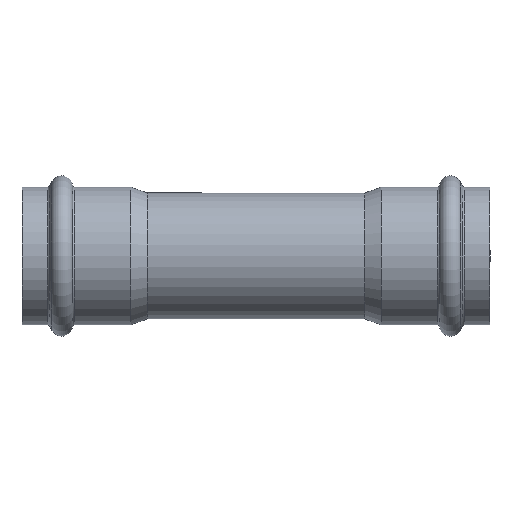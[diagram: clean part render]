
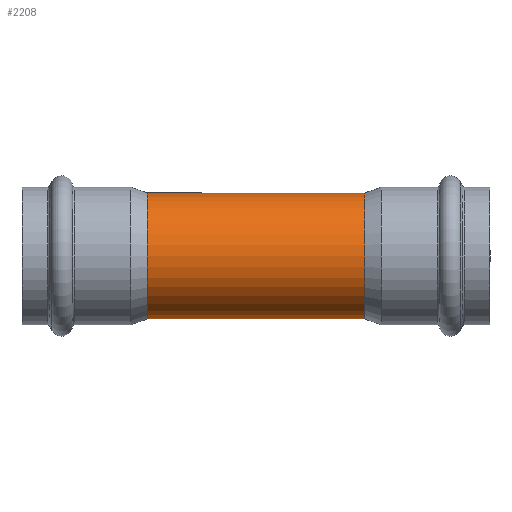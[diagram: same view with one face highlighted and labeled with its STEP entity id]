
A CAD part, front view. The second image highlights one B-rep face of the part: STEP entity #2208.
In plain terms, the highlighted cylindrical face has radius 17.5 mm (diameter 35 mm), a full revolution.
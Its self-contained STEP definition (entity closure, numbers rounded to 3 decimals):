
#1989=CARTESIAN_POINT('',(0.,10.243,-14.189));
#1990=VERTEX_POINT('',#1989);
#2078=CARTESIAN_POINT('',(0.,10.243,-14.189));
#2079=CARTESIAN_POINT('',(-0.445,10.243,-14.189));
#2080=CARTESIAN_POINT('',(-1.039,10.278,-14.164));
#2081=CARTESIAN_POINT('',(-1.99,10.406,-14.07));
#2082=CARTESIAN_POINT('',(-2.71,10.549,-13.964));
#2083=CARTESIAN_POINT('',(-3.836,10.849,-13.734));
#2084=CARTESIAN_POINT('',(-4.98,11.254,-13.408));
#2085=CARTESIAN_POINT('',(-5.99,11.7,-13.017));
#2086=CARTESIAN_POINT('',(-7.094,12.233,-12.522));
#2087=CARTESIAN_POINT('',(-8.141,12.802,-11.951));
#2088=CARTESIAN_POINT('',(-9.434,13.577,-11.058));
#2089=CARTESIAN_POINT('',(-10.526,14.278,-10.147));
#2090=CARTESIAN_POINT('',(-11.738,15.1,-8.896));
#2091=CARTESIAN_POINT('',(-12.557,15.683,-7.8));
#2092=CARTESIAN_POINT('',(-13.114,16.087,-6.894));
#2093=CARTESIAN_POINT('',(-13.422,16.313,-6.349));
#2094=CARTESIAN_POINT('',(-13.683,16.506,-5.823));
#2095=CARTESIAN_POINT('',(-14.166,16.865,-4.744));
#2096=CARTESIAN_POINT('',(-14.663,17.242,-3.257));
#2097=CARTESIAN_POINT('',(-15.015,17.512,-1.041));
#2098=CARTESIAN_POINT('',(-15.016,17.512,1.125));
#2099=CARTESIAN_POINT('',(-14.72,17.285,2.877));
#2100=CARTESIAN_POINT('',(-14.363,17.015,4.117));
#2101=CARTESIAN_POINT('',(-14.118,16.83,4.811));
#2102=CARTESIAN_POINT('',(-13.804,16.596,5.572));
#2103=CARTESIAN_POINT('',(-13.408,16.302,6.391));
#2104=CARTESIAN_POINT('',(-12.82,15.873,7.398));
#2105=CARTESIAN_POINT('',(-12.213,15.438,8.259));
#2106=CARTESIAN_POINT('',(-11.324,14.816,9.344));
#2107=CARTESIAN_POINT('',(-10.147,14.023,10.515));
#2108=CARTESIAN_POINT('',(-8.751,13.157,11.558));
#2109=CARTESIAN_POINT('',(-7.555,12.483,12.272));
#2110=CARTESIAN_POINT('',(-6.529,11.95,12.792));
#2111=CARTESIAN_POINT('',(-5.529,11.49,13.204));
#2112=CARTESIAN_POINT('',(-4.573,11.111,13.522));
#2113=CARTESIAN_POINT('',(-3.581,10.774,13.793));
#2114=CARTESIAN_POINT('',(-2.078,10.381,14.091));
#2115=CARTESIAN_POINT('',(-0.002,10.158,14.249));
#2116=CARTESIAN_POINT('',(1.879,10.359,14.107));
#2117=CARTESIAN_POINT('',(3.203,10.673,13.87));
#2118=CARTESIAN_POINT('',(3.943,10.895,13.696));
#2119=CARTESIAN_POINT('',(5.116,11.306,13.363));
#2120=CARTESIAN_POINT('',(6.183,11.779,12.953));
#2121=CARTESIAN_POINT('',(7.132,12.263,12.486));
#2122=CARTESIAN_POINT('',(7.676,12.553,12.195));
#2123=CARTESIAN_POINT('',(8.092,12.785,11.951));
#2124=CARTESIAN_POINT('',(8.977,13.297,11.39));
#2125=CARTESIAN_POINT('',(10.164,14.034,10.5));
#2126=CARTESIAN_POINT('',(11.329,14.82,9.337));
#2127=CARTESIAN_POINT('',(12.105,15.362,8.391));
#2128=CARTESIAN_POINT('',(12.522,15.659,7.821));
#2129=CARTESIAN_POINT('',(13.158,16.117,6.859));
#2130=CARTESIAN_POINT('',(13.919,16.679,5.434));
#2131=CARTESIAN_POINT('',(14.549,17.156,3.609));
#2132=CARTESIAN_POINT('',(14.843,17.38,2.149));
#2133=CARTESIAN_POINT('',(15.015,17.512,0.664));
#2134=CARTESIAN_POINT('',(15.016,17.512,-0.936));
#2135=CARTESIAN_POINT('',(14.77,17.324,-2.602));
#2136=CARTESIAN_POINT('',(14.406,17.047,-4.035));
#2137=CARTESIAN_POINT('',(13.835,16.617,-5.594));
#2138=CARTESIAN_POINT('',(13.065,16.048,-7.032));
#2139=CARTESIAN_POINT('',(12.265,15.475,-8.19));
#2140=CARTESIAN_POINT('',(11.165,14.704,-9.557));
#2141=CARTESIAN_POINT('',(9.748,13.759,-10.865));
#2142=CARTESIAN_POINT('',(8.02,12.732,-12.023));
#2143=CARTESIAN_POINT('',(6.382,11.86,-12.889));
#2144=CARTESIAN_POINT('',(4.851,11.191,-13.461));
#2145=CARTESIAN_POINT('',(3.211,10.663,-13.879));
#2146=CARTESIAN_POINT('',(1.781,10.337,-14.122));
#2147=CARTESIAN_POINT('',(0.594,10.243,-14.189));
#2148=CARTESIAN_POINT('',(0.,10.243,-14.189));
#2149=CARTESIAN_POINT('',(0.,10.243,-14.189));
#2150=CARTESIAN_POINT('',(0.,10.243,-14.189));
#2151=CARTESIAN_POINT('',(0.,10.243,-14.189));
#2152=B_SPLINE_CURVE_WITH_KNOTS('',3,(#2078,#2079,#2080,#2081,#2082,#2083,#2084,#2085,#2086,#2087,#2088,#2089,#2090,#2091,#2092,#2093,#2094,#2095,#2096,#2097,#2098,#2099,#2100,#2101,#2102,#2103,#2104,#2105,#2106,#2107,#2108,#2109,#2110,#2111,#2112,#2113,#2114,#2115,#2116,#2117,#2118,#2119,#2120,#2121,#2122,#2123,#2124,#2125,#2126,#2127,#2128,#2129,#2130,#2131,#2132,#2133,#2134,#2135,#2136,#2137,#2138,#2139,#2140,#2141,#2142,#2143,#2144,#2145,#2146,#2147,#2148,#2149,#2150,#2151),.UNSPECIFIED.,.T.,.U.,(4,1,1,1,1,1,1,1,1,1,1,1,1,1,1,1,1,1,1,1,1,1,1,1,1,1,1,1,1,1,1,1,1,1,1,1,1,1,1,1,1,1,1,1,1,1,1,1,1,1,1,1,1,1,1,1,1,1,1,1,1,1,1,1,1,1,1,1,3,4),(-9.044,-8.923,-8.883,-8.782,-8.721,-8.56,-8.439,-8.398,-8.197,-8.075,-7.914,-7.752,-7.537,-7.497,-7.429,-7.349,-7.322,-7.079,-6.891,-6.676,-6.46,-6.38,-6.299,-6.245,-6.137,-6.03,-5.895,-5.814,-5.599,-5.384,-5.276,-5.168,-5.034,-4.953,-4.872,-4.738,-4.522,-4.307,-4.226,-4.145,-4.092,-3.876,-3.809,-3.769,-3.688,-3.661,-3.445,-3.23,-3.149,-3.069,-3.015,-2.799,-2.584,-2.45,-2.369,-2.153,-1.992,-1.884,-1.723,-1.507,-1.4,-1.292,-0.969,-0.808,-0.646,-0.404,-0.323,-0.162,0.0,0.),.UNSPECIFIED.);
#2153=EDGE_CURVE('',#1990,#1990,#2152,.T.);
#2178=CARTESIAN_POINT('',(15.135,0.,0.0));
#2179=DIRECTION('',(1.0,0.,0.0));
#2180=DIRECTION('',(0.0,1.0,0.0));
#2181=AXIS2_PLACEMENT_3D('',#2178,#2179,#2180);
#2182=CYLINDRICAL_SURFACE('',#2181,17.5);
#2183=CARTESIAN_POINT('',(30.271,17.5,0.0));
#2184=VERTEX_POINT('',#2183);
#2185=CARTESIAN_POINT('',(30.271,0.,0.0));
#2186=DIRECTION('',(1.0,0.0,0.0));
#2187=DIRECTION('',(0.0,1.0,0.0));
#2188=AXIS2_PLACEMENT_3D('',#2185,#2186,#2187);
#2189=CIRCLE('',#2188,17.5);
#2190=EDGE_CURVE('',#2184,#2184,#2189,.T.);
#2191=ORIENTED_EDGE('',*,*,#2190,.F.);
#2192=EDGE_LOOP('',(#2191));
#2193=FACE_OUTER_BOUND('',#2192,.T.);
#2194=CARTESIAN_POINT('',(-30.271,17.5,0.0));
#2195=VERTEX_POINT('',#2194);
#2196=CARTESIAN_POINT('',(-30.271,0.,0.0));
#2197=DIRECTION('',(1.0,0.0,0.0));
#2198=DIRECTION('',(0.0,1.0,0.0));
#2199=AXIS2_PLACEMENT_3D('',#2196,#2197,#2198);
#2200=CIRCLE('',#2199,17.5);
#2201=EDGE_CURVE('',#2195,#2195,#2200,.T.);
#2202=ORIENTED_EDGE('',*,*,#2201,.T.);
#2203=EDGE_LOOP('',(#2202));
#2204=FACE_BOUND('',#2203,.T.);
#2205=ORIENTED_EDGE('',*,*,#2153,.F.);
#2206=EDGE_LOOP('',(#2205));
#2207=FACE_BOUND('',#2206,.T.);
#2208=ADVANCED_FACE('',(#2193,#2204,#2207),#2182,.T.);
